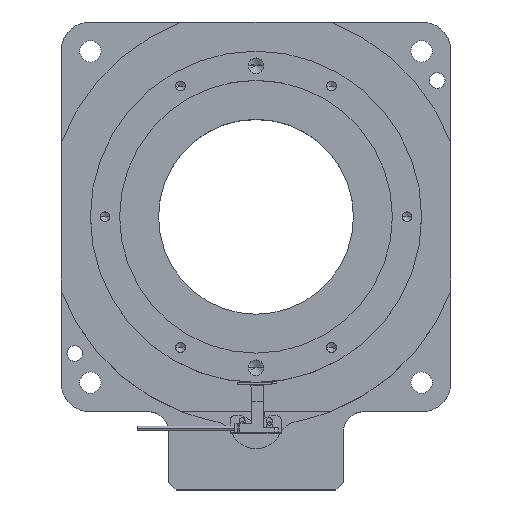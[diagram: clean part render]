
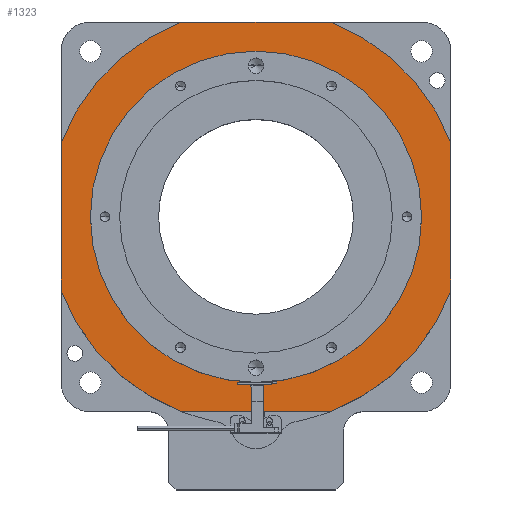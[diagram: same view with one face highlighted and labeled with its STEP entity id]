
A CAD part, top view. The second image highlights one B-rep face of the part: STEP entity #1323.
In plain terms, the highlighted planar face has unit normal (0, 0, 1).
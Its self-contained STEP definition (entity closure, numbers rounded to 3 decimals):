
#218 = CIRCLE ( 'NONE', #4781, 107. ) ;
#226 = CARTESIAN_POINT ( 'NONE',  ( -50.49, -83.548, 37.6 ) ) ;
#280 = CARTESIAN_POINT ( 'NONE',  ( -12.424, 16.452, 37.6 ) ) ;
#325 = VECTOR ( 'NONE', #6240, 1000. ) ;
#418 = EDGE_CURVE ( 'NONE', #6962, #2074, #1316, .T. ) ;
#515 = DIRECTION ( 'NONE',  ( 1., 0., 0. ) ) ;
#563 = LINE ( 'NONE', #3568, #325 ) ;
#579 = CARTESIAN_POINT ( 'NONE',  ( -12.424, -3.548, 37.6 ) ) ;
#626 = ORIENTED_EDGE ( 'NONE', *, *, #6296, .T. ) ;
#665 = CARTESIAN_POINT ( 'NONE',  ( -12.424, 16.452, 37.6 ) ) ;
#745 = EDGE_LOOP ( 'NONE', ( #2723, #3070, #1434, #2386, #988, #1772, #6724, #626 ) ) ;
#919 = AXIS2_PLACEMENT_3D ( 'NONE', #280, #7747, #3985 ) ;
#988 = ORIENTED_EDGE ( 'NONE', *, *, #7222, .T. ) ;
#1064 = CIRCLE ( 'NONE', #5238, 85. ) ;
#1193 = PLANE ( 'NONE',  #1869 ) ;
#1277 = VERTEX_POINT ( 'NONE', #3673 ) ;
#1316 = CIRCLE ( 'NONE', #919, 107. ) ;
#1323 = ADVANCED_FACE ( 'NONE', ( #4285, #3142 ), #1193, .T. ) ;
#1394 = CARTESIAN_POINT ( 'NONE',  ( -12.424, 16.452, 37.6 ) ) ;
#1434 = ORIENTED_EDGE ( 'NONE', *, *, #5586, .T. ) ;
#1438 = CARTESIAN_POINT ( 'NONE',  ( -12.424, 16.452, 37.6 ) ) ;
#1456 = CARTESIAN_POINT ( 'NONE',  ( -76.276, -83.548, 37.6 ) ) ;
#1477 = LINE ( 'NONE', #5929, #4441 ) ;
#1526 = DIRECTION ( 'NONE',  ( 0., 1., 0. ) ) ;
#1772 = ORIENTED_EDGE ( 'NONE', *, *, #4063, .T. ) ;
#1869 = AXIS2_PLACEMENT_3D ( 'NONE', #579, #3056, #5028 ) ;
#1882 = VERTEX_POINT ( 'NONE', #7704 ) ;
#1903 = VERTEX_POINT ( 'NONE', #4552 ) ;
#1965 = DIRECTION ( 'NONE',  ( 1., 0., 0. ) ) ;
#2074 = VERTEX_POINT ( 'NONE', #4346 ) ;
#2119 = EDGE_CURVE ( 'NONE', #6162, #1882, #563, .T. ) ;
#2304 = AXIS2_PLACEMENT_3D ( 'NONE', #6444, #3329, #5211 ) ;
#2349 = DIRECTION ( 'NONE',  ( 0., 0., 1. ) ) ;
#2386 = ORIENTED_EDGE ( 'NONE', *, *, #418, .T. ) ;
#2684 = DIRECTION ( 'NONE',  ( -1., 0., 0. ) ) ;
#2723 = ORIENTED_EDGE ( 'NONE', *, *, #5096, .F. ) ;
#2859 = VERTEX_POINT ( 'NONE', #6058 ) ;
#2982 = CARTESIAN_POINT ( 'NONE',  ( -112.424, 54.518, 37.6 ) ) ;
#3056 = DIRECTION ( 'NONE',  ( 0., 0., 1. ) ) ;
#3070 = ORIENTED_EDGE ( 'NONE', *, *, #5977, .T. ) ;
#3142 = FACE_OUTER_BOUND ( 'NONE', #745, .T. ) ;
#3299 = CARTESIAN_POINT ( 'NONE',  ( -97.424, 16.452, 37.6 ) ) ;
#3329 = DIRECTION ( 'NONE',  ( 0., 0., 1. ) ) ;
#3389 = CARTESIAN_POINT ( 'NONE',  ( -50.49, 116.452, 37.6 ) ) ;
#3568 = CARTESIAN_POINT ( 'NONE',  ( -112.424, 101.452, 37.6 ) ) ;
#3673 = CARTESIAN_POINT ( 'NONE',  ( 87.576, -21.614, 37.6 ) ) ;
#3730 = CIRCLE ( 'NONE', #2304, 85. ) ;
#3985 = DIRECTION ( 'NONE',  ( 1., 0., 0. ) ) ;
#4063 = EDGE_CURVE ( 'NONE', #6007, #6162, #7500, .T. ) ;
#4129 = CARTESIAN_POINT ( 'NONE',  ( 87.576, 101.452, 37.6 ) ) ;
#4213 = CARTESIAN_POINT ( 'NONE',  ( 87.576, 54.518, 37.6 ) ) ;
#4285 = FACE_BOUND ( 'NONE', #8060, .T. ) ;
#4346 = CARTESIAN_POINT ( 'NONE',  ( 25.641, 116.452, 37.6 ) ) ;
#4441 = VECTOR ( 'NONE', #7804, 1000. ) ;
#4511 = VECTOR ( 'NONE', #2684, 1000. ) ;
#4552 = CARTESIAN_POINT ( 'NONE',  ( 25.641, -83.548, 37.6 ) ) ;
#4575 = DIRECTION ( 'NONE',  ( 0., 0., 1. ) ) ;
#4683 = VERTEX_POINT ( 'NONE', #3299 ) ;
#4781 = AXIS2_PLACEMENT_3D ( 'NONE', #1394, #7560, #1965 ) ;
#4898 = ORIENTED_EDGE ( 'NONE', *, *, #8037, .F. ) ;
#5028 = DIRECTION ( 'NONE',  ( 1., 0., 0. ) ) ;
#5078 = DIRECTION ( 'NONE',  ( 1., 0., 0. ) ) ;
#5096 = EDGE_CURVE ( 'NONE', #1903, #5605, #5098, .T. ) ;
#5098 = LINE ( 'NONE', #1456, #4511 ) ;
#5127 = EDGE_CURVE ( 'NONE', #2859, #4683, #3730, .T. ) ;
#5211 = DIRECTION ( 'NONE',  ( 1., 0., 0. ) ) ;
#5238 = AXIS2_PLACEMENT_3D ( 'NONE', #665, #7406, #5078 ) ;
#5586 = EDGE_CURVE ( 'NONE', #1277, #6962, #7165, .T. ) ;
#5605 = VERTEX_POINT ( 'NONE', #226 ) ;
#5929 = CARTESIAN_POINT ( 'NONE',  ( -97.424, 116.452, 37.6 ) ) ;
#5977 = EDGE_CURVE ( 'NONE', #1903, #1277, #6612, .T. ) ;
#6007 = VERTEX_POINT ( 'NONE', #3389 ) ;
#6058 = CARTESIAN_POINT ( 'NONE',  ( 72.576, 16.452, 37.6 ) ) ;
#6162 = VERTEX_POINT ( 'NONE', #2982 ) ;
#6240 = DIRECTION ( 'NONE',  ( 0., -1., 0. ) ) ;
#6296 = EDGE_CURVE ( 'NONE', #1882, #5605, #218, .T. ) ;
#6369 = VECTOR ( 'NONE', #1526, 1000. ) ;
#6444 = CARTESIAN_POINT ( 'NONE',  ( -12.424, 16.452, 37.6 ) ) ;
#6457 = AXIS2_PLACEMENT_3D ( 'NONE', #6729, #2349, #515 ) ;
#6612 = CIRCLE ( 'NONE', #7772, 107. ) ;
#6724 = ORIENTED_EDGE ( 'NONE', *, *, #2119, .T. ) ;
#6729 = CARTESIAN_POINT ( 'NONE',  ( -12.424, 16.452, 37.6 ) ) ;
#6922 = ORIENTED_EDGE ( 'NONE', *, *, #5127, .F. ) ;
#6962 = VERTEX_POINT ( 'NONE', #4213 ) ;
#7165 = LINE ( 'NONE', #4129, #6369 ) ;
#7194 = DIRECTION ( 'NONE',  ( 1., 0., 0. ) ) ;
#7222 = EDGE_CURVE ( 'NONE', #2074, #6007, #1477, .T. ) ;
#7406 = DIRECTION ( 'NONE',  ( 0., 0., 1. ) ) ;
#7500 = CIRCLE ( 'NONE', #6457, 107. ) ;
#7560 = DIRECTION ( 'NONE',  ( 0., 0., 1. ) ) ;
#7704 = CARTESIAN_POINT ( 'NONE',  ( -112.424, -21.614, 37.6 ) ) ;
#7747 = DIRECTION ( 'NONE',  ( 0., 0., 1. ) ) ;
#7772 = AXIS2_PLACEMENT_3D ( 'NONE', #1438, #4575, #7194 ) ;
#7804 = DIRECTION ( 'NONE',  ( -1., 0., 0. ) ) ;
#8037 = EDGE_CURVE ( 'NONE', #4683, #2859, #1064, .T. ) ;
#8060 = EDGE_LOOP ( 'NONE', ( #6922, #4898 ) ) ;
